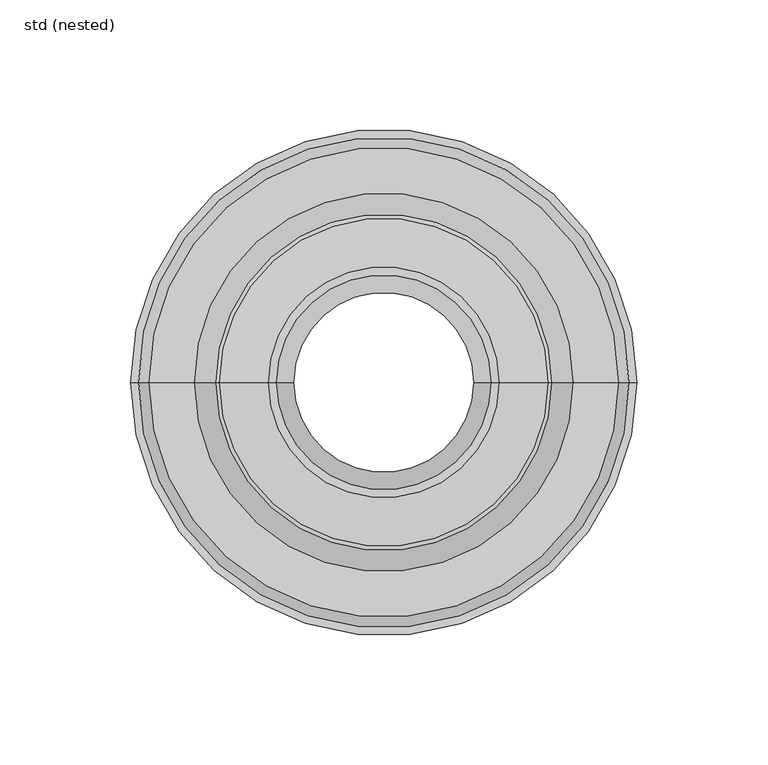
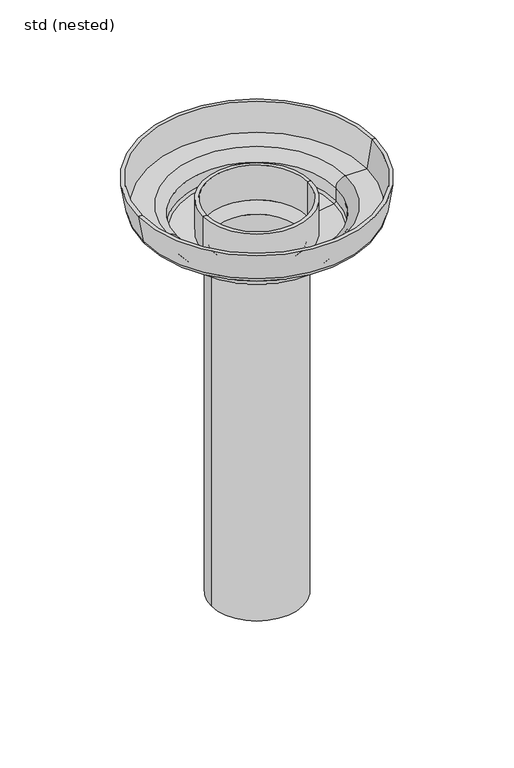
"""IFC4 building model written with IfcOpenShell, lengths in millimetres: sanitary terminal geometry, Akasison vertical pipe connector_SH_Akatherm : std (nested)."""

from ifc_helpers import new_model, si_unit, point, frame, origin, place, context, project, spatial, polyline, circle_curve, ellipse_curve, trimmed, source, transform, mapped, element, save
from ifc_brep_helpers import plane_surface, cylinder_surface, revolved_surface, advanced_brep


def std_nested_2a588846(model_context):
    return source(origin(), model_context, "Body", "AdvancedBrep", [
        advanced_brep(
        [(88.2643646, 0.0, -33.0), (-88.2643646, 0.0, -33.0), (-93.1963342, 0.0, -28.8219949), (93.1963342, 0.0, -28.8219949), (72.5, 0.0, -33.0), (-72.5, 0.0, -33.0), (67.5, 0.0, -38.0), (-67.5, 0.0, -38.0), (67.5, 0.0, -48.7643646), (-67.5, 0.0, -48.7643646), (63.3219949, 0.0, -53.6963342), (-63.3219949, 0.0, -53.6963342), (41.6780051, 0.0, -57.3036658), (-41.6780051, 0.0, -57.3036658), (37.5, 0.0, -62.2356354), (-37.5, 0.0, -62.2356354), (37.5, 0.0, -364.0), (-37.5, 0.0, -364.0), (34.5, 0.0, -364.0), (-34.5, 0.0, -364.0), (34.5, 0.0, -62.2356354), (-34.5, 0.0, -62.2356354), (41.1848081, 0.0, -54.3444841), (-41.1848081, 0.0, -54.3444841), (62.828798, 0.0, -50.7371524), (-62.828798, 0.0, -50.7371524), (-44.1848081, 0.0, -53.8444841), (44.1848081, 0.0, -53.8444841), (64.5, 0.0, -48.7643646), (-64.5, 0.0, -48.7643646), (64.5, 0.0, -38.0), (-64.5, 0.0, -38.0), (72.5, 0.0, -30.0), (-72.5, 0.0, -30.0), (89.9586187, 0.0, -30.0), (-89.9586187, 0.0, -30.0), (93.9586187, 0.0, -6.0), (-93.9586187, 0.0, -6.0), (97.0, 0.0, -6.0), (-97.0, 0.0, -6.0), (41.1848081, 0.0, -24.3444841), (-41.1848081, 0.0, -24.3444841), (44.1848081, 0.0, -24.3444841), (-44.1848081, 0.0, -24.3444841)],
        [
            (0, 1, circle_curve(frame((0.0, 0.0, -33.0), z_axis=(0.0, 0.0, 1.0), x_axis=(-1.0, 0.0, 0.0)), 88.2643646)),
            (1, 2, circle_curve(frame((-88.2643646, 0.0, -28.0), z_axis=(0.0, 1.0, 0.0), x_axis=(1.0, 0.0, 0.0)), 5.0)),
            (2, 3, circle_curve(frame((0.0, 0.0, -28.8219949), z_axis=(0.0, 0.0, -1.0), x_axis=(-1.0, 0.0, 0.0)), 93.1963342)),
            (3, 0, circle_curve(frame((88.2643646, 0.0, -28.0), z_axis=(0.0, 1.0, 0.0), x_axis=(-1.0, 0.0, 0.0)), 5.0)),
            (1, 0, circle_curve(frame((0.0, 0.0, -33.0), z_axis=(0.0, 0.0, 1.0), x_axis=(-1.0, 0.0, 0.0)), 88.2643646)),
            (3, 2, circle_curve(frame((0.0, 0.0, -28.8219949), z_axis=(0.0, 0.0, -1.0), x_axis=(-1.0, 0.0, 0.0)), 93.1963342)),
            (4, 5, circle_curve(frame((0.0, 0.0, -33.0), z_axis=(0.0, 0.0, 1.0), x_axis=(-1.0, 0.0, 0.0)), 72.5)),
            (5, 1),
            (0, 4),
            (5, 4, circle_curve(frame((0.0, 0.0, -33.0), z_axis=(0.0, 0.0, 1.0), x_axis=(-1.0, 0.0, 0.0)), 72.5)),
            (6, 7, circle_curve(frame((0.0, 0.0, -38.0), z_axis=(0.0, 0.0, 1.0), x_axis=(-1.0, 0.0, 0.0)), 67.5)),
            (7, 5, circle_curve(frame((-72.5, 0.0, -38.0), z_axis=(0.0, -1.0, 0.0), x_axis=(1.0, 0.0, 0.0)), 5.0)),
            (4, 6, circle_curve(frame((72.5, 0.0, -38.0), z_axis=(0.0, -1.0, 0.0), x_axis=(-1.0, 0.0, 0.0)), 5.0)),
            (7, 6, circle_curve(frame((0.0, 0.0, -38.0), z_axis=(0.0, 0.0, 1.0), x_axis=(-1.0, 0.0, 0.0)), 67.5)),
            (8, 9, circle_curve(frame((0.0, 0.0, -48.7643646), z_axis=(0.0, 0.0, 1.0), x_axis=(-1.0, 0.0, 0.0)), 67.5)),
            (9, 7),
            (6, 8),
            (9, 8, circle_curve(frame((0.0, 0.0, -48.7643646), z_axis=(0.0, 0.0, 1.0), x_axis=(-1.0, 0.0, 0.0)), 67.5)),
            (10, 11, circle_curve(frame((0.0, 0.0, -53.6963342), z_axis=(0.0, 0.0, 1.0), x_axis=(-1.0, 0.0, 0.0)), 63.3219949)),
            (11, 9, circle_curve(frame((-62.5, 0.0, -48.7643646), z_axis=(0.0, 1.0, 0.0), x_axis=(1.0, 0.0, 0.0)), 5.0)),
            (8, 10, circle_curve(frame((62.5, 0.0, -48.7643646), z_axis=(0.0, 1.0, 0.0), x_axis=(-1.0, 0.0, 0.0)), 5.0)),
            (11, 10, circle_curve(frame((0.0, 0.0, -53.6963342), z_axis=(0.0, 0.0, 1.0), x_axis=(-1.0, 0.0, 0.0)), 63.3219949)),
            (12, 13, circle_curve(frame((0.0, 0.0, -57.3036658), z_axis=(0.0, 0.0, 1.0), x_axis=(-1.0, 0.0, 0.0)), 41.6780051)),
            (13, 11),
            (10, 12),
            (13, 12, circle_curve(frame((0.0, 0.0, -57.3036658), z_axis=(0.0, 0.0, 1.0), x_axis=(-1.0, 0.0, 0.0)), 41.6780051)),
            (14, 15, circle_curve(frame((0.0, 0.0, -62.2356354), z_axis=(0.0, 0.0, 1.0), x_axis=(-1.0, 0.0, 0.0)), 37.5)),
            (15, 13, circle_curve(frame((-42.5, 0.0, -62.2356354), z_axis=(0.0, -1.0, 0.0), x_axis=(1.0, 0.0, 0.0)), 5.0)),
            (12, 14, circle_curve(frame((42.5, 0.0, -62.2356354), z_axis=(0.0, -1.0, 0.0), x_axis=(-1.0, 0.0, 0.0)), 5.0)),
            (15, 14, circle_curve(frame((0.0, 0.0, -62.2356354), z_axis=(0.0, 0.0, 1.0), x_axis=(-1.0, 0.0, 0.0)), 37.5)),
            (16, 17, circle_curve(frame((0.0, 0.0, -364.0), z_axis=(0.0, 0.0, 1.0), x_axis=(-1.0, 0.0, 0.0)), 37.5)),
            (17, 15),
            (14, 16),
            (17, 16, circle_curve(frame((0.0, 0.0, -364.0), z_axis=(0.0, 0.0, 1.0), x_axis=(-1.0, 0.0, 0.0)), 37.5)),
            (18, 19, circle_curve(frame((0.0, 0.0, -364.0), z_axis=(0.0, 0.0, 1.0), x_axis=(-1.0, 0.0, 0.0)), 34.5)),
            (19, 17),
            (16, 18),
            (19, 18, circle_curve(frame((0.0, 0.0, -364.0), z_axis=(0.0, 0.0, 1.0), x_axis=(-1.0, 0.0, 0.0)), 34.5)),
            (20, 21, circle_curve(frame((0.0, 0.0, -62.2356354), z_axis=(0.0, 0.0, 1.0), x_axis=(-1.0, 0.0, 0.0)), 34.5)),
            (21, 19),
            (18, 20),
            (21, 20, circle_curve(frame((0.0, 0.0, -62.2356354), z_axis=(0.0, 0.0, 1.0), x_axis=(-1.0, 0.0, 0.0)), 34.5)),
            (22, 23, circle_curve(frame((0.0, 0.0, -54.3444841), z_axis=(0.0, 0.0, 1.0), x_axis=(-1.0, 0.0, 0.0)), 41.1848081)),
            (23, 21, circle_curve(frame((-42.5, 0.0, -62.2356354), z_axis=(0.0, 1.0, 0.0), x_axis=(1.0, 0.0, 0.0)), 8.0)),
            (20, 22, circle_curve(frame((42.5, 0.0, -62.2356354), z_axis=(0.0, 1.0, 0.0), x_axis=(-1.0, 0.0, 0.0)), 8.0)),
            (23, 22, circle_curve(frame((0.0, 0.0, -54.3444841), z_axis=(0.0, 0.0, 1.0), x_axis=(-1.0, 0.0, 0.0)), 41.1848081)),
            (24, 25, circle_curve(frame((0.0, 0.0, -50.7371524), z_axis=(0.0, 0.0, 1.0), x_axis=(-1.0, 0.0, 0.0)), 62.828798)),
            (25, 26),
            (26, 27, circle_curve(frame((0.0, 0.0, -53.8444841), z_axis=(0.0, 0.0, -1.0), x_axis=(-1.0, 0.0, 0.0)), 44.1848081)),
            (27, 24),
            (25, 24, circle_curve(frame((0.0, 0.0, -50.7371524), z_axis=(0.0, 0.0, 1.0), x_axis=(-1.0, 0.0, 0.0)), 62.828798)),
            (27, 26, circle_curve(frame((0.0, 0.0, -53.8444841), z_axis=(0.0, 0.0, -1.0), x_axis=(-1.0, 0.0, 0.0)), 44.1848081)),
            (28, 29, circle_curve(frame((0.0, 0.0, -48.7643646), z_axis=(0.0, 0.0, 1.0), x_axis=(-1.0, 0.0, 0.0)), 64.5)),
            (29, 25, circle_curve(frame((-62.5, 0.0, -48.7643646), z_axis=(0.0, -1.0, 0.0), x_axis=(1.0, 0.0, 0.0)), 2.0)),
            (24, 28, circle_curve(frame((62.5, 0.0, -48.7643646), z_axis=(0.0, -1.0, 0.0), x_axis=(-1.0, 0.0, 0.0)), 2.0)),
            (29, 28, circle_curve(frame((0.0, 0.0, -48.7643646), z_axis=(0.0, 0.0, 1.0), x_axis=(-1.0, 0.0, 0.0)), 64.5)),
            (30, 31, circle_curve(frame((0.0, 0.0, -38.0), z_axis=(0.0, 0.0, 1.0), x_axis=(-1.0, 0.0, 0.0)), 64.5)),
            (31, 29),
            (28, 30),
            (31, 30, circle_curve(frame((0.0, 0.0, -38.0), z_axis=(0.0, 0.0, 1.0), x_axis=(-1.0, 0.0, 0.0)), 64.5)),
            (32, 33, circle_curve(frame((0.0, 0.0, -30.0), z_axis=(0.0, 0.0, 1.0), x_axis=(-1.0, 0.0, 0.0)), 72.5)),
            (33, 31, circle_curve(frame((-72.5, 0.0, -38.0), z_axis=(0.0, 1.0, 0.0), x_axis=(1.0, 0.0, 0.0)), 8.0)),
            (30, 32, circle_curve(frame((72.5, 0.0, -38.0), z_axis=(0.0, 1.0, 0.0), x_axis=(-1.0, 0.0, 0.0)), 8.0)),
            (33, 32, circle_curve(frame((0.0, 0.0, -30.0), z_axis=(0.0, 0.0, 1.0), x_axis=(-1.0, 0.0, 0.0)), 72.5)),
            (34, 35, circle_curve(frame((0.0, 0.0, -30.0), z_axis=(0.0, 0.0, 1.0), x_axis=(-1.0, 0.0, 0.0)), 89.9586187)),
            (35, 33),
            (32, 34),
            (35, 34, circle_curve(frame((0.0, 0.0, -30.0), z_axis=(0.0, 0.0, 1.0), x_axis=(-1.0, 0.0, 0.0)), 89.9586187)),
            (36, 37, circle_curve(frame((0.0, 0.0, -6.0), z_axis=(0.0, 0.0, 1.0), x_axis=(-1.0, 0.0, 0.0)), 93.9586187)),
            (37, 35),
            (34, 36),
            (37, 36, circle_curve(frame((0.0, 0.0, -6.0), z_axis=(0.0, 0.0, 1.0), x_axis=(-1.0, 0.0, 0.0)), 93.9586187)),
            (38, 39, circle_curve(frame((0.0, 0.0, -6.0), z_axis=(0.0, 0.0, 1.0), x_axis=(-1.0, 0.0, 0.0)), 97.0)),
            (39, 37),
            (36, 38),
            (39, 38, circle_curve(frame((0.0, 0.0, -6.0), z_axis=(0.0, 0.0, 1.0), x_axis=(-1.0, 0.0, 0.0)), 97.0)),
            (2, 39),
            (38, 3),
            (40, 41, circle_curve(frame((0.0, 0.0, -24.3444841), z_axis=(0.0, 0.0, 1.0), x_axis=(-1.0, 0.0, 0.0)), 41.1848081)),
            (41, 23),
            (22, 40),
            (41, 40, circle_curve(frame((0.0, 0.0, -24.3444841), z_axis=(0.0, 0.0, 1.0), x_axis=(-1.0, 0.0, 0.0)), 41.1848081)),
            (42, 43, circle_curve(frame((0.0, 0.0, -24.3444841), z_axis=(0.0, 0.0, 1.0), x_axis=(-1.0, 0.0, 0.0)), 44.1848081)),
            (43, 41),
            (40, 42),
            (43, 42, circle_curve(frame((0.0, 0.0, -24.3444841), z_axis=(0.0, 0.0, 1.0), x_axis=(-1.0, 0.0, 0.0)), 44.1848081)),
            (26, 43),
            (42, 27),
        ],
        [
            revolved_surface(trimmed(ellipse_curve(frame((-88.2643646, 0.0, -28.0), z_axis=(0.0, -1.0, 0.0), x_axis=(1.0, 0.0, 0.0)), 5.0, 5.0), [point((-93.1963342, 0.0, -28.8219949))], [point((-88.2643646, 0.0, -33.0))], True, "CARTESIAN"), (0.0, 0.0, 117.0), (0.0, 0.0, -1.0)),
            plane_surface(frame((0.0, 0.0, -33.0), z_axis=(0.0, 0.0, -1.0), x_axis=(-1.0, 0.0, 0.0))),
            revolved_surface(trimmed(ellipse_curve(frame((-72.5, 0.0, -38.0), z_axis=(0.0, 1.0, 0.0), x_axis=(1.0, 0.0, 0.0)), 5.0, 5.0), [point((-72.5, 0.0, -33.0))], [point((-67.5, 0.0, -38.0))], True, "CARTESIAN"), (0.0, 0.0, 117.0), (0.0, 0.0, -1.0)),
            cylinder_surface(frame((0.0, 0.0, 117.0), z_axis=(0.0, 0.0, -1.0), x_axis=(-1.0, 0.0, 0.0)), 67.5),
            revolved_surface(trimmed(ellipse_curve(frame((-62.5, 0.0, -48.7643646), z_axis=(0.0, -1.0, 0.0), x_axis=(1.0, 0.0, 0.0)), 5.0, 5.0), [point((-67.5, 0.0, -48.7643646))], [point((-63.3219949, 0.0, -53.6963342))], True, "CARTESIAN"), (0.0, 0.0, 117.0), (0.0, 0.0, -1.0)),
            revolved_surface(polyline([(-63.3219949, 0.0, -53.6963342), (-41.6780051, 0.0, -57.3036658)]), (0.0, 0.0, 117.0), (0.0, 0.0, -1.0)),
            revolved_surface(trimmed(ellipse_curve(frame((-42.5, 0.0, -62.2356354), z_axis=(0.0, 1.0, 0.0), x_axis=(1.0, 0.0, 0.0)), 5.0, 5.0), [point((-41.6780051, 0.0, -57.3036658))], [point((-37.5, 0.0, -62.2356354))], True, "CARTESIAN"), (0.0, 0.0, 117.0), (0.0, 0.0, -1.0)),
            cylinder_surface(frame((0.0, 0.0, 117.0), z_axis=(0.0, 0.0, -1.0), x_axis=(-1.0, 0.0, 0.0)), 37.5),
            plane_surface(frame((0.0, 0.0, -364.0), z_axis=(0.0, 0.0, -1.0), x_axis=(-1.0, 0.0, 0.0))),
            revolved_surface(polyline([(-34.5, 0.0, -364.0), (-34.5, 0.0, -62.23563540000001)]), (0.0, 0.0, 117.0), (0.0, 0.0, -1.0)),
            revolved_surface(trimmed(ellipse_curve(frame((-42.5, 0.0, -62.2356354), z_axis=(0.0, -1.0, 0.0), x_axis=(1.0, 0.0, 0.0)), 8.0, 8.0), [point((-34.5, 0.0, -62.2356354))], [point((-41.1848081, 0.0, -54.3444841))], True, "CARTESIAN"), (0.0, 0.0, 117.0), (0.0, 0.0, -1.0)),
            revolved_surface(polyline([(-44.1848081, 0.0, -53.8444841), (-62.828798, 0.0, -50.7371524)]), (0.0, 0.0, 117.0), (0.0, 0.0, -1.0)),
            revolved_surface(trimmed(ellipse_curve(frame((-62.5, 0.0, -48.7643646), z_axis=(0.0, 1.0, 0.0), x_axis=(1.0, 0.0, 0.0)), 2.0, 2.0), [point((-62.828798, 0.0, -50.7371524))], [point((-64.5, 0.0, -48.7643646))], True, "CARTESIAN"), (0.0, 0.0, 117.0), (0.0, 0.0, -1.0)),
            revolved_surface(polyline([(-64.5, 0.0, -48.76436459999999), (-64.5, 0.0, -38.0)]), (0.0, 0.0, 117.0), (0.0, 0.0, -1.0)),
            revolved_surface(trimmed(ellipse_curve(frame((-72.5, 0.0, -38.0), z_axis=(0.0, -1.0, 0.0), x_axis=(1.0, 0.0, 0.0)), 8.0, 8.0), [point((-64.5, 0.0, -38.0))], [point((-72.5, 0.0, -30.0))], True, "CARTESIAN"), (0.0, 0.0, 117.0), (0.0, 0.0, -1.0)),
            plane_surface(frame((0.0, 0.0, -30.0), z_axis=(0.0, 0.0, 1.0), x_axis=(-1.0, 0.0, 0.0))),
            revolved_surface(polyline([(-89.9586187, 0.0, -30.0), (-93.9586187, 0.0, -6.0)]), (0.0, 0.0, 117.0), (0.0, 0.0, -1.0)),
            plane_surface(frame((0.0, 0.0, -6.0), z_axis=(0.0, 0.0, 1.0), x_axis=(-1.0, 0.0, 0.0))),
            revolved_surface(polyline([(-97.0, 0.0, -6.0), (-93.1963342, 0.0, -28.8219949)]), (0.0, 0.0, 117.0), (0.0, 0.0, -1.0)),
            revolved_surface(polyline([(-41.1848081, 0.0, -54.34448409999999), (-41.1848081, 0.0, -24.34448409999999)]), (0.0, 0.0, 117.0), (0.0, 0.0, -1.0)),
            plane_surface(frame((0.0, 0.0, -24.3444841), z_axis=(0.0, 0.0, 1.0), x_axis=(-1.0, 0.0, 0.0))),
            cylinder_surface(frame((0.0, 0.0, 117.0), z_axis=(0.0, 0.0, -1.0), x_axis=(-1.0, 0.0, 0.0)), 44.1848081),
        ],
        [
            (0, [[1, 2, 3, 4]]),
            (0, [[5, -4, 6, -2]]),
            (1, [[7, 8, -1, 9]]),
            (1, [[10, -9, -5, -8]]),
            (2, [[11, 12, -7, 13]]),
            (2, [[14, -13, -10, -12]]),
            (3, [[15, 16, -11, 17]]),
            (3, [[18, -17, -14, -16]]),
            (4, [[19, 20, -15, 21]]),
            (4, [[22, -21, -18, -20]]),
            (5, [[23, 24, -19, 25]]),
            (5, [[26, -25, -22, -24]]),
            (6, [[27, 28, -23, 29]]),
            (6, [[30, -29, -26, -28]]),
            (7, [[31, 32, -27, 33]]),
            (7, [[34, -33, -30, -32]]),
            (8, [[35, 36, -31, 37]]),
            (8, [[38, -37, -34, -36]]),
            (9, [[39, 40, -35, 41]]),
            (9, [[42, -41, -38, -40]]),
            (10, [[43, 44, -39, 45]]),
            (10, [[46, -45, -42, -44]]),
            (11, [[47, 48, 49, 50]]),
            (11, [[51, -50, 52, -48]]),
            (12, [[53, 54, -47, 55]]),
            (12, [[56, -55, -51, -54]]),
            (13, [[57, 58, -53, 59]]),
            (13, [[60, -59, -56, -58]]),
            (14, [[61, 62, -57, 63]]),
            (14, [[64, -63, -60, -62]]),
            (15, [[65, 66, -61, 67]]),
            (15, [[68, -67, -64, -66]]),
            (16, [[69, 70, -65, 71]]),
            (16, [[72, -71, -68, -70]]),
            (17, [[73, 74, -69, 75]]),
            (17, [[76, -75, -72, -74]]),
            (18, [[-3, 77, -73, 78]]),
            (18, [[-6, -78, -76, -77]]),
            (19, [[79, 80, -43, 81]]),
            (19, [[82, -81, -46, -80]]),
            (20, [[83, 84, -79, 85]]),
            (20, [[86, -85, -82, -84]]),
            (21, [[-49, 87, -83, 88]]),
            (21, [[-52, -88, -86, -87]]),
        ],
    ),
    ])


if __name__ == "__main__":
    model = new_model("IFC4")
    model_context = context("Model", 3, world=origin())
    ifc_project = project(units=[si_unit("LENGTHUNIT", "METRE", prefix="MILLI")], contexts=[model_context])
    site = spatial("IfcSite", under=ifc_project)
    building = spatial("IfcBuilding", under=site)
    placement = place(None, origin())
    std_nested_shape = std_nested_2a588846(model_context)
    element("IfcSanitaryTerminal", 1, ObjectType="Akasison vertical pipe connector_SH_Akatherm : std (nested)", at=placement, inside=building, context=model_context, shape_type="MappedRepresentation", body=[
        mapped(std_nested_shape, transform((0.0, 0.0, 0.0), x_axis=(1.0, 0.0, 0.0), y_axis=(0.0, 1.0, 0.0), z_axis=(0.0, 0.0, 1.0))),
    ])
    save(model, "model.ifc")
